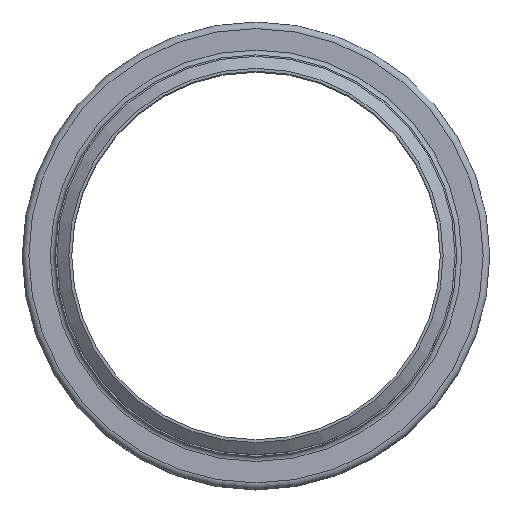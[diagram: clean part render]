
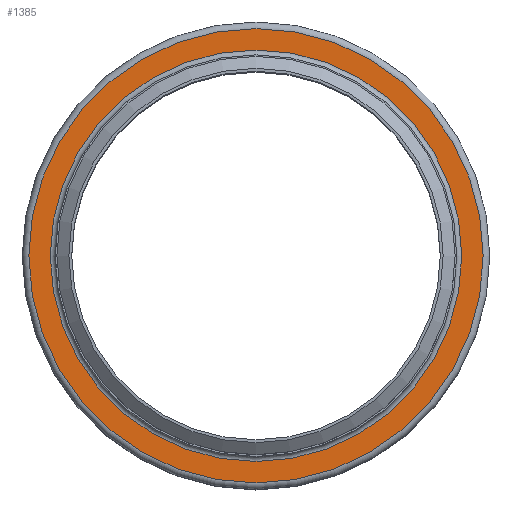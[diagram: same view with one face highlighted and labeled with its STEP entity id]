
A CAD part, top view. The second image highlights one B-rep face of the part: STEP entity #1385.
In plain terms, the highlighted planar face has unit normal (0, 0, 1).
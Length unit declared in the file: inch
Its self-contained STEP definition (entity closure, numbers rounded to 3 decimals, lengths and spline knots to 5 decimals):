
#155=FACE_BOUND('',#416,.T.);
#256=FACE_OUTER_BOUND('',#415,.T.);
#415=EDGE_LOOP('',(#1168));
#416=EDGE_LOOP('',(#1169));
#584=CIRCLE('',#1684,4.4555);
#585=CIRCLE('',#1686,4.9195);
#703=VERTEX_POINT('',#2631);
#704=VERTEX_POINT('',#2635);
#862=EDGE_CURVE('',#703,#703,#584,.T.);
#863=EDGE_CURVE('',#704,#704,#585,.T.);
#1168=ORIENTED_EDGE('',*,*,#863,.F.);
#1169=ORIENTED_EDGE('',*,*,#862,.T.);
#1284=PLANE('',#1685);
#1385=ADVANCED_FACE('',(#256,#155),#1284,.T.);
#1684=AXIS2_PLACEMENT_3D('',#2633,#2197,#2198);
#1685=AXIS2_PLACEMENT_3D('',#2634,#2199,#2200);
#1686=AXIS2_PLACEMENT_3D('',#2636,#2201,#2202);
#2197=DIRECTION('center_axis',(0.,0.,-1.));
#2198=DIRECTION('ref_axis',(1.,0.,0.));
#2199=DIRECTION('center_axis',(0.,0.,1.));
#2200=DIRECTION('ref_axis',(1.,0.,0.));
#2201=DIRECTION('center_axis',(0.,0.,-1.));
#2202=DIRECTION('ref_axis',(1.,0.,0.));
#2631=CARTESIAN_POINT('',(4.4555,0.,-0.107));
#2633=CARTESIAN_POINT('Origin',(0.,0.,-0.107));
#2634=CARTESIAN_POINT('Origin',(0.,4.9195,-0.107));
#2635=CARTESIAN_POINT('',(4.9195,0.,-0.107));
#2636=CARTESIAN_POINT('Origin',(0.,0.,-0.107));
